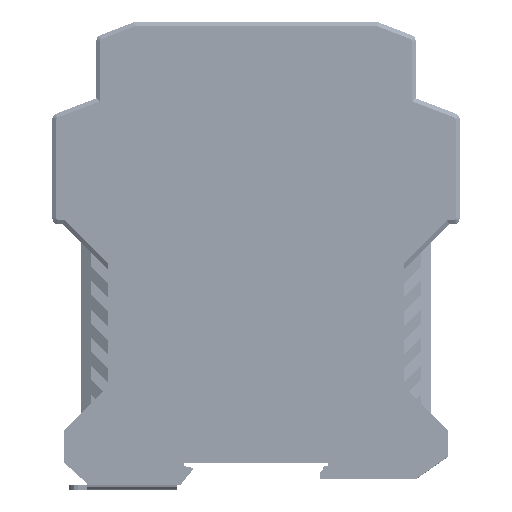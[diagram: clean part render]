
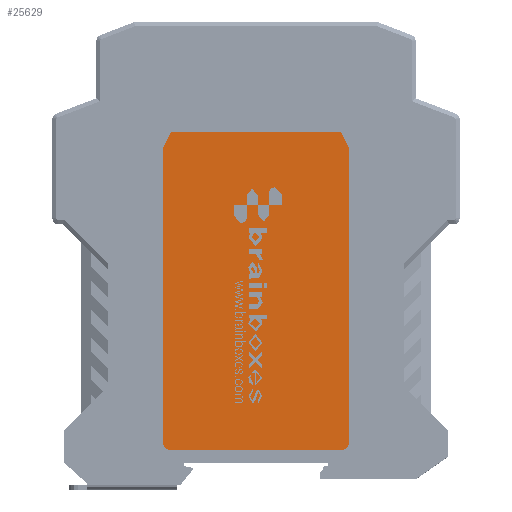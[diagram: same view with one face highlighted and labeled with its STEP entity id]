
A CAD part, top view. The second image highlights one B-rep face of the part: STEP entity #25629.
In plain terms, the highlighted planar face has unit normal (0, 0, 1).
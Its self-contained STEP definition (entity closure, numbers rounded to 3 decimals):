
#25629=ADVANCED_FACE('',(#57343),#57344,.T.);
#57343=FACE_OUTER_BOUND('',#101225,.T.);
#57344=PLANE('',#101226);
#101225=EDGE_LOOP('',(#176080,#176081,#176082,#176083,#176084,#176085,#176086,#176087));
#101226=AXIS2_PLACEMENT_3D('',#176088,#176089,#176090);
#176080=ORIENTED_EDGE('',*,*,#256319,.T.);
#176081=ORIENTED_EDGE('',*,*,#256321,.T.);
#176082=ORIENTED_EDGE('',*,*,#256322,.T.);
#176083=ORIENTED_EDGE('',*,*,#256312,.F.);
#176084=ORIENTED_EDGE('',*,*,#256323,.T.);
#176085=ORIENTED_EDGE('',*,*,#256308,.T.);
#176086=ORIENTED_EDGE('',*,*,#256324,.T.);
#176087=ORIENTED_EDGE('',*,*,#256316,.T.);
#176088=CARTESIAN_POINT('',(6.465,75.955,22.4));
#176089=DIRECTION('',(0.0,0.0,1.0));
#176090=DIRECTION('',(1.0,-0.0,0.0));
#256308=EDGE_CURVE('',#310563,#310565,#310567,.T.);
#256312=EDGE_CURVE('',#310571,#310569,#310573,.T.);
#256316=EDGE_CURVE('',#310575,#310577,#310579,.T.);
#256319=EDGE_CURVE('',#310577,#310581,#310583,.T.);
#256321=EDGE_CURVE('',#310581,#310585,#310586,.T.);
#256322=EDGE_CURVE('',#310585,#310569,#310587,.T.);
#256323=EDGE_CURVE('',#310571,#310563,#310588,.T.);
#256324=EDGE_CURVE('',#310565,#310575,#310589,.T.);
#310563=VERTEX_POINT('',#391546);
#310565=VERTEX_POINT('',#391549);
#310567=LINE('',#391552,#391553);
#310569=VERTEX_POINT('',#391555);
#310571=VERTEX_POINT('',#391558);
#310573=LINE('',#391561,#391562);
#310575=VERTEX_POINT('',#391564);
#310577=VERTEX_POINT('',#391567);
#310579=LINE('',#391570,#391571);
#310581=VERTEX_POINT('',#391573);
#310583=LINE('',#391576,#391577);
#310585=VERTEX_POINT('',#391579);
#310586=LINE('',#391580,#391581);
#310587=CIRCLE('',#391582,2.0);
#310588=CIRCLE('',#391583,2.0);
#310589=LINE('',#391584,#391585);
#391546=CARTESIAN_POINT('',(22.65,5.,22.4));
#391549=CARTESIAN_POINT('',(22.65,76.3,22.4));
#391552=CARTESIAN_POINT('',(22.65,-8.,22.4));
#391553=VECTOR('',#465200,1.0);
#391555=CARTESIAN_POINT('',(-20.65,3.,22.4));
#391558=CARTESIAN_POINT('',(20.65,3.,22.4));
#391561=CARTESIAN_POINT('',(0.,3.,22.4));
#391562=VECTOR('',#465203,1.0);
#391564=CARTESIAN_POINT('',(20.65,80.3,22.4));
#391567=CARTESIAN_POINT('',(-20.65,80.3,22.4));
#391570=CARTESIAN_POINT('',(0.,80.3,22.4));
#391571=VECTOR('',#465206,1.0);
#391573=CARTESIAN_POINT('',(-22.65,76.3,22.4));
#391576=CARTESIAN_POINT('',(-51.84,17.92,22.4));
#391577=VECTOR('',#465208,1.0);
#391579=CARTESIAN_POINT('',(-22.65,5.,22.4));
#391580=CARTESIAN_POINT('',(-22.65,-8.,22.4));
#391581=VECTOR('',#465209,1.0);
#391582=AXIS2_PLACEMENT_3D('',#465210,#465211,#465212);
#391583=AXIS2_PLACEMENT_3D('',#465213,#465214,#465215);
#391584=CARTESIAN_POINT('',(51.84,17.92,22.4));
#391585=VECTOR('',#465216,1.0);
#465200=DIRECTION('',(0.,1.0,0.0));
#465203=DIRECTION('',(-1.0,0.,0.0));
#465206=DIRECTION('',(-1.0,0.0,0.0));
#465208=DIRECTION('',(-0.447,-0.894,0.0));
#465209=DIRECTION('',(0.,-1.0,0.0));
#465210=CARTESIAN_POINT('',(-20.65,5.,22.4));
#465211=DIRECTION('',(0.0,0.0,1.0));
#465212=DIRECTION('',(1.0,0.0,-0.0));
#465213=CARTESIAN_POINT('',(20.65,5.,22.4));
#465214=DIRECTION('',(0.0,0.0,1.0));
#465215=DIRECTION('',(1.0,0.0,-0.0));
#465216=DIRECTION('',(-0.447,0.894,0.0));
